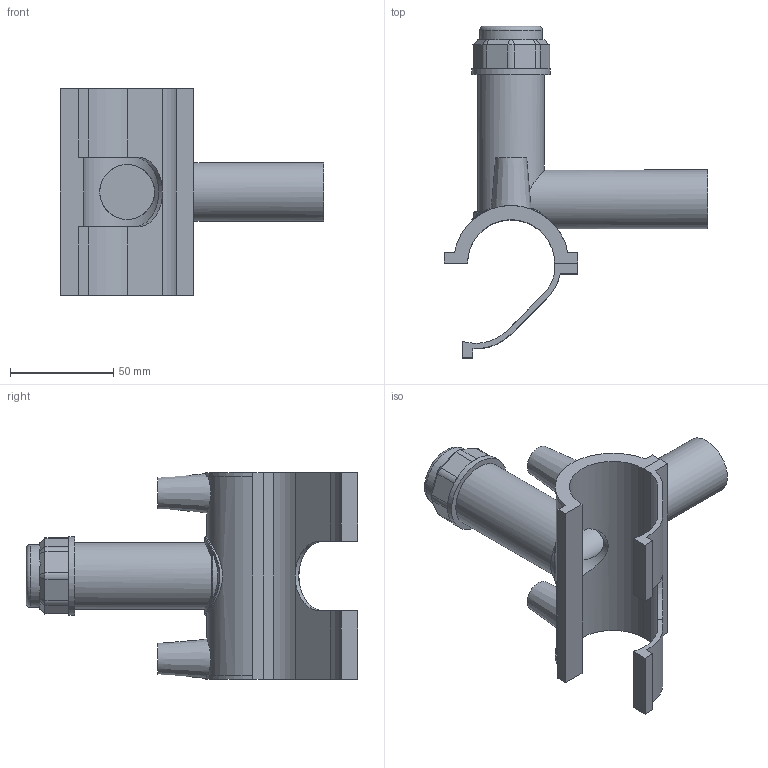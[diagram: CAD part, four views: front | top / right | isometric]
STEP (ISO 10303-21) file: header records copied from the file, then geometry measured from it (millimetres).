
FILE_DESCRIPTION(/* description */ ('PLASSON TAPPING SADDLE 1 1/4''''IPS x 1''''CTS'),/* implementation_level */ '2;1');
FILE_NAME(/* name */ 'C:\Dropbox\KIMPROJECTS-Inventor 2019\99-16-3568-Processing Inch\ASTM ElectroFusion 2021\5963B\5963BU03013010.ipt.stp',/* time_stamp */ '2021-08-30T09:55:57+03:00',/* author */ ('KIM'),/* organization */ (''),/* preprocessor_version */ 'ST-DEVELOPER v17.2',/* originating_system */ 'Autodesk Inventor 2019',/* authorisation */ '');
FILE_SCHEMA (('AUTOMOTIVE_DESIGN { 1 0 10303 214 3 1 1 }'));
Length unit declared in the file: millimetre
Products named in the file (1): 5963BU03013010
Bounding box: 127.25 x 160.41 x 100.08 mm (x, y, z)
Volume: 135066.5 mm3; surface area: 65189.4 mm2
Topology: 2 solids, 2 shells, 111 faces, 290 edges, 191 vertices
Faces by surface type: plane 66, cylinder 32, cone 11, bspline 1, torus 1
Full cylindrical faces by diameter (mm): 4 x2, 10 x2, 22.76 x1, 26.523 x1, 28.45 x1, 30.312 x1, 32.206 x1, 37.89 x1
Entity records: 3928 total; most frequent: CARTESIAN_POINT 1125, ORIENTED_EDGE 580, DIRECTION 577, EDGE_CURVE 290, AXIS2_PLACEMENT_3D 210, VERTEX_POINT 191, LINE 157, VECTOR 157
